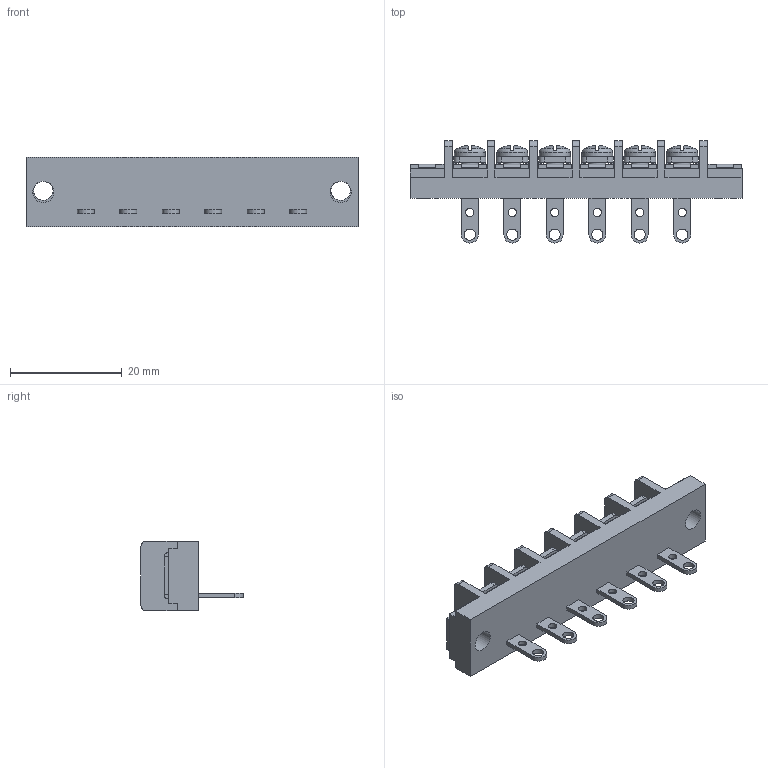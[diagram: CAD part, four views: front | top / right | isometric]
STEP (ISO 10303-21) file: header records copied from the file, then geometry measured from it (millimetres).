
FILE_DESCRIPTION(/* description */ ('Alibre Inc.'),/* implementation_level */ '2;1');
FILE_NAME(/* name */ 'export0',/* time_stamp */ '2015-10-26T18:04:29+09:00',/* author */ (''),/* organization */ (''),/* preprocessor_version */ 'ST-DEVELOPER v14',/* originating_system */ 'Alibre',/* authorisation */ '');
FILE_SCHEMA (('CONFIG_CONTROL_DESIGN'));
Length unit declared in the file: centimetre
Products named in the file (1): ID_1
Bounding box: 59.54 x 18.3 x 12.5 mm (x, y, z)
Volume: 5073.6 mm3; surface area: 4819.4 mm2
Topology: 1 solids, 17 shells, 1036 faces, 2810 edges, 1854 vertices
Faces by surface type: plane 790, bspline 104, cylinder 94, cone 24, torus 12, sphere 12
Full cylindrical faces by diameter (mm): 1.5 x6, 2 x6, 3 x6, 3.5 x2, 3.8 x2, 5.5 x6
Entity records: 30995 total; most frequent: CARTESIAN_POINT 6955, ORIENTED_EDGE 5484, DIRECTION 3728, EDGE_CURVE 2742, VECTOR 1976, LINE 1976, VERTEX_POINT 1826, AXIS2_PLACEMENT_3D 1233
